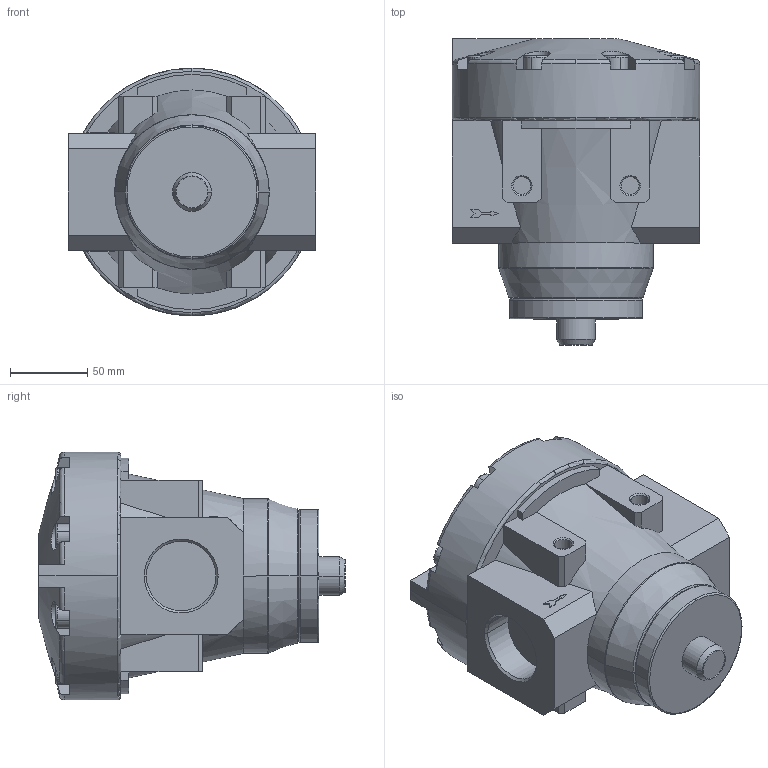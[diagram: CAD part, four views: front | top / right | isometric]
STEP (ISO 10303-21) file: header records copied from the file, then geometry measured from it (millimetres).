
FILE_DESCRIPTION( ( '' ), '1' );
FILE_NAME( 'C:/temp/knocks_out/standard_series/pressure_regulator/9.1587.00.100.0V.stp', '2018-09-17T12:31:10', ( '' ), ( '' ), ' ', ' ', ' ' );
FILE_SCHEMA( ( 'automotive_design' ) );
Length unit declared in the file: millimetre
Products named in the file (1): 1
Bounding box: 160 x 198 x 160 mm (x, y, z)
Volume: 2422480.4 mm3; surface area: 131253.6 mm2
Topology: 1 solids, 1 shells, 309 faces, 808 edges, 531 vertices
Faces by surface type: plane 196, cylinder 46, torus 35, cone 32
Entity records: 19204 total; most frequent: CARTESIAN_POINT 2291, STYLED_ITEM 1649, PRESENTATION_STYLE_ASSIGNMENT 1649, COLOUR_RGB 1649, DIRECTION 1635, ORIENTED_EDGE 1616, EDGE_CURVE 808, CURVE_STYLE 808
